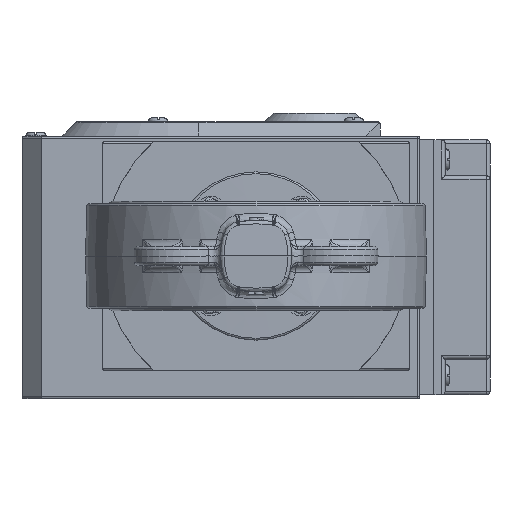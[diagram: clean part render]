
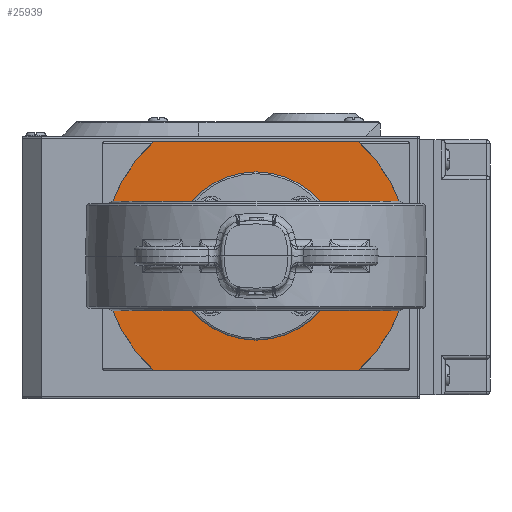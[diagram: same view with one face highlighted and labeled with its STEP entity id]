
A CAD part, front view. The second image highlights one B-rep face of the part: STEP entity #25939.
In plain terms, the highlighted planar face has unit normal (0, -1, 0).
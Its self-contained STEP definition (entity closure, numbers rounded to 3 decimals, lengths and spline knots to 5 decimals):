
#1515=PLANE('',#28809);
#4790=FACE_OUTER_BOUND('',#6417,.T.);
#6417=EDGE_LOOP('',(#24197,#24198,#24199,#24200,#24201,#24202,#24203,#24204));
#7192=LINE('',#74048,#8461);
#7206=LINE('',#74080,#8475);
#8461=VECTOR('',#33526,0.11143);
#8475=VECTOR('',#33550,0.11143);
#10060=CIRCLE('',#28174,0.084);
#10315=CIRCLE('',#28808,0.084);
#10316=CIRCLE('',#28810,0.001);
#10317=CIRCLE('',#28811,0.001);
#10318=CIRCLE('',#28812,0.001);
#10319=CIRCLE('',#28813,0.001);
#12105=VERTEX_POINT('',#74045);
#12106=VERTEX_POINT('',#74047);
#12118=VERTEX_POINT('',#74077);
#12119=VERTEX_POINT('',#74079);
#12123=VERTEX_POINT('',#74092);
#12124=VERTEX_POINT('',#74093);
#12681=VERTEX_POINT('',#77734);
#12682=VERTEX_POINT('',#77735);
#15615=EDGE_CURVE('',#12106,#12105,#7192,.T.);
#15631=EDGE_CURVE('',#12119,#12118,#7206,.T.);
#15638=EDGE_CURVE('',#12123,#12124,#10060,.T.);
#16524=EDGE_CURVE('',#12681,#12682,#10315,.T.);
#16529=EDGE_CURVE('',#12118,#12681,#10316,.F.);
#16530=EDGE_CURVE('',#12682,#12106,#10317,.F.);
#16531=EDGE_CURVE('',#12105,#12123,#10318,.F.);
#16532=EDGE_CURVE('',#12124,#12119,#10319,.F.);
#24197=ORIENTED_EDGE('',*,*,#15631,.T.);
#24198=ORIENTED_EDGE('',*,*,#16529,.T.);
#24199=ORIENTED_EDGE('',*,*,#16524,.T.);
#24200=ORIENTED_EDGE('',*,*,#16530,.T.);
#24201=ORIENTED_EDGE('',*,*,#15615,.T.);
#24202=ORIENTED_EDGE('',*,*,#16531,.T.);
#24203=ORIENTED_EDGE('',*,*,#15638,.T.);
#24204=ORIENTED_EDGE('',*,*,#16532,.T.);
#25939=ADVANCED_FACE('',(#4790),#1515,.F.);
#28174=AXIS2_PLACEMENT_3D('',#74094,#33563,#33564);
#28808=AXIS2_PLACEMENT_3D('',#77736,#35313,#35314);
#28809=AXIS2_PLACEMENT_3D('',#77753,#35317,#35318);
#28810=AXIS2_PLACEMENT_3D('',#77754,#35319,#35320);
#28811=AXIS2_PLACEMENT_3D('',#77755,#35321,#35322);
#28812=AXIS2_PLACEMENT_3D('',#77756,#35323,#35324);
#28813=AXIS2_PLACEMENT_3D('',#77757,#35325,#35326);
#33526=DIRECTION('',(1.,0.,0.));
#33550=DIRECTION('',(-1.,0.,0.));
#33563=DIRECTION('center_axis',(0.,-1.,0.));
#33564=DIRECTION('ref_axis',(1.,0.,0.));
#35313=DIRECTION('center_axis',(0.,-1.,0.));
#35314=DIRECTION('ref_axis',(1.,0.,0.));
#35317=DIRECTION('center_axis',(0.,1.,0.));
#35318=DIRECTION('ref_axis',(0.,0.,1.));
#35319=DIRECTION('center_axis',(0.,1.,0.));
#35320=DIRECTION('ref_axis',(-1.,0.,0.));
#35321=DIRECTION('center_axis',(0.,1.,0.));
#35322=DIRECTION('ref_axis',(-1.,0.,0.));
#35323=DIRECTION('center_axis',(0.,1.,0.));
#35324=DIRECTION('ref_axis',(-1.,0.,0.));
#35325=DIRECTION('center_axis',(0.,1.,0.));
#35326=DIRECTION('ref_axis',(-1.,0.,0.));
#74045=CARTESIAN_POINT('',(0.05572,-0.10875,-0.06252));
#74047=CARTESIAN_POINT('',(-0.05572,-0.10875,-0.06252));
#74048=CARTESIAN_POINT('',(-0.05572,-0.10875,-0.06252));
#74077=CARTESIAN_POINT('',(-0.05572,-0.10875,0.06252));
#74079=CARTESIAN_POINT('',(0.05572,-0.10875,0.06252));
#74080=CARTESIAN_POINT('',(0.05572,-0.10875,0.06252));
#74092=CARTESIAN_POINT('',(0.05639,-0.10875,-0.06226));
#74093=CARTESIAN_POINT('',(0.05639,-0.10875,0.06226));
#74094=CARTESIAN_POINT('Origin',(0.,-0.10875,0.));
#77734=CARTESIAN_POINT('',(-0.05639,-0.10875,0.06226));
#77735=CARTESIAN_POINT('',(-0.05639,-0.10875,-0.06226));
#77736=CARTESIAN_POINT('Origin',(0.,-0.10875,0.));
#77753=CARTESIAN_POINT('Origin',(0.,-0.10875,0.));
#77754=CARTESIAN_POINT('Origin',(-0.05572,-0.10875,0.06152));
#77755=CARTESIAN_POINT('Origin',(-0.05572,-0.10875,-0.06152));
#77756=CARTESIAN_POINT('Origin',(0.05572,-0.10875,-0.06152));
#77757=CARTESIAN_POINT('Origin',(0.05572,-0.10875,0.06152));
